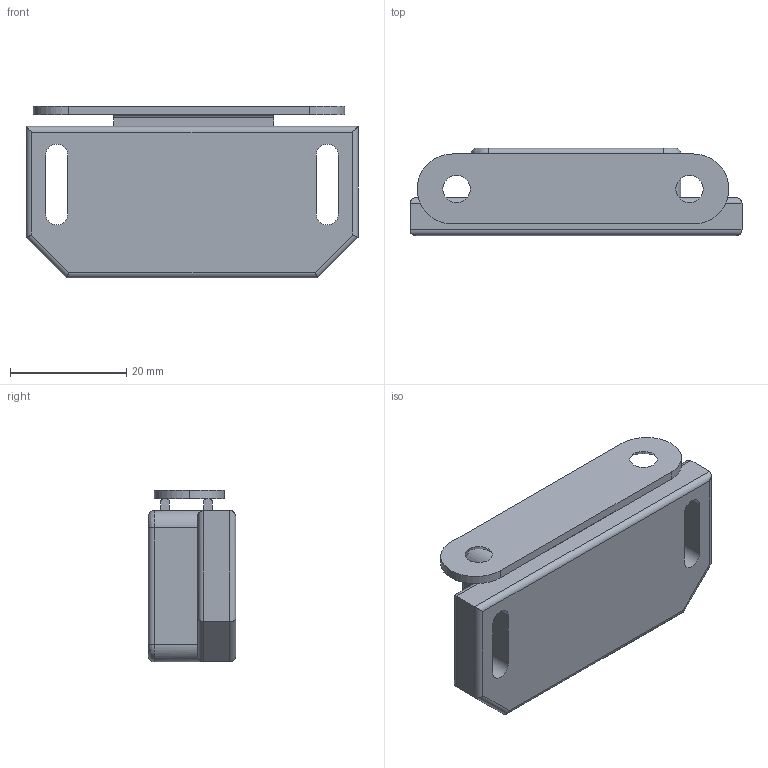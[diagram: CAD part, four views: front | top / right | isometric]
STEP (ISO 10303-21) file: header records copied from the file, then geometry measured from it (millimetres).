
FILE_DESCRIPTION (( 'STEP AP203' ), '1' );
FILE_NAME ('213-CE-DOS-A.STEP', '2015-07-09T09:27:33', ( '' ), ( '' ), 'SwSTEP 2.0', 'SolidWorks 2013', '' );
FILE_SCHEMA (( 'CONFIG_CONTROL_DESIGN' ));
Length unit declared in the file: millimetre
Products named in the file (1): 213-CE-DOS-A
Bounding box: 57 x 15 x 29.5 mm (x, y, z)
Surface area: 6312.5 mm2 (no closed solid volume)
Topology: 0 solids, 2 shells, 97 faces, 249 edges, 156 vertices
Faces by surface type: cylinder 47, plane 30, bspline 16, cone 4
Entity records: 3811 total; most frequent: CARTESIAN_POINT 1506, ORIENTED_EDGE 482, DIRECTION 431, EDGE_CURVE 249, VERTEX_POINT 156, AXIS2_PLACEMENT_3D 151, VECTOR 129, LINE 129
